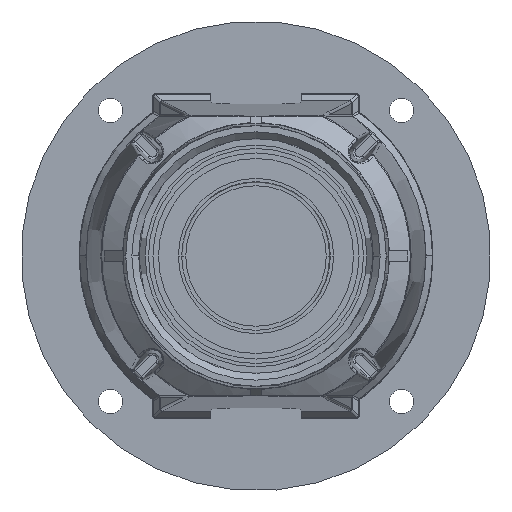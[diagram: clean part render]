
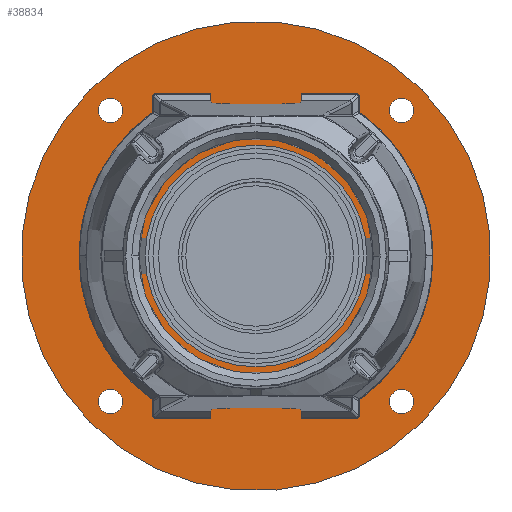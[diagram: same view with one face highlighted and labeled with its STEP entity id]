
A CAD part, front view. The second image highlights one B-rep face of the part: STEP entity #38834.
In plain terms, the highlighted planar face has unit normal (0, -1, 0) as drawn and (0, 0, -1) by its records, which use the part's own axes.
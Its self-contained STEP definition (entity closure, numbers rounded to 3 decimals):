
#38409=CARTESIAN_POINT('',(959.747,61.164,0.));
#38410=DIRECTION('',(0.,0.,1.));
#38411=DIRECTION('',(1.,0.,0.));
#38412=AXIS2_PLACEMENT_3D('',#38409,#38410,#38411);
#38414=CARTESIAN_POINT('',(959.747,61.164,0.));
#38415=DIRECTION('',(0.,0.,1.));
#38416=DIRECTION('',(-1.,0.,0.));
#38417=AXIS2_PLACEMENT_3D('',#38414,#38415,#38416);
#38419=CARTESIAN_POINT('',(913.247,61.164,0.));
#38420=DIRECTION('',(0.,0.,-1.));
#38421=DIRECTION('',(1.,0.,0.));
#38422=AXIS2_PLACEMENT_3D('',#38419,#38420,#38421);
#38424=CARTESIAN_POINT('',(913.247,61.164,0.));
#38425=DIRECTION('',(0.,0.,-1.));
#38426=DIRECTION('',(-1.,0.,0.));
#38427=AXIS2_PLACEMENT_3D('',#38424,#38425,#38426);
#38429=CARTESIAN_POINT('',(959.747,107.664,0.));
#38430=DIRECTION('',(0.,0.,-1.));
#38431=DIRECTION('',(1.,0.,0.));
#38432=AXIS2_PLACEMENT_3D('',#38429,#38430,#38431);
#38434=CARTESIAN_POINT('',(959.747,107.664,0.));
#38435=DIRECTION('',(0.,0.,-1.));
#38436=DIRECTION('',(-1.,0.,0.));
#38437=AXIS2_PLACEMENT_3D('',#38434,#38435,#38436);
#38439=CARTESIAN_POINT('',(1006.247,61.164,0.));
#38440=DIRECTION('',(0.,0.,-1.));
#38441=DIRECTION('',(1.,0.,0.));
#38442=AXIS2_PLACEMENT_3D('',#38439,#38440,#38441);
#38444=CARTESIAN_POINT('',(1006.247,61.164,0.));
#38445=DIRECTION('',(0.,0.,-1.));
#38446=DIRECTION('',(-1.,0.,0.));
#38447=AXIS2_PLACEMENT_3D('',#38444,#38445,#38446);
#38449=CARTESIAN_POINT('',(959.747,14.664,0.));
#38450=DIRECTION('',(0.,0.,-1.));
#38451=DIRECTION('',(1.,0.,0.));
#38452=AXIS2_PLACEMENT_3D('',#38449,#38450,#38451);
#38454=CARTESIAN_POINT('',(959.747,14.664,0.));
#38455=DIRECTION('',(0.,0.,-1.));
#38456=DIRECTION('',(-1.,0.,0.));
#38457=AXIS2_PLACEMENT_3D('',#38454,#38455,#38456);
#38459=CARTESIAN_POINT('',(959.747,61.164,0.));
#38460=DIRECTION('',(0.,0.,-1.));
#38461=DIRECTION('',(1.,0.,0.));
#38462=AXIS2_PLACEMENT_3D('',#38459,#38460,#38461);
#38464=CARTESIAN_POINT('',(959.747,61.164,0.));
#38465=DIRECTION('',(0.,0.,-1.));
#38466=DIRECTION('',(-1.,0.,0.));
#38467=AXIS2_PLACEMENT_3D('',#38464,#38465,#38466);
#38469=CARTESIAN_POINT('',(959.747,28.164,0.));
#38470=DIRECTION('',(0.,0.,1.));
#38471=DIRECTION('',(1.,0.,0.));
#38472=AXIS2_PLACEMENT_3D('',#38469,#38470,#38471);
#38474=CARTESIAN_POINT('',(959.747,28.164,0.));
#38475=DIRECTION('',(0.,0.,1.));
#38476=DIRECTION('',(-1.,0.,0.));
#38477=AXIS2_PLACEMENT_3D('',#38474,#38475,#38476);
#38479=CARTESIAN_POINT('',(926.747,61.164,0.));
#38480=DIRECTION('',(0.,0.,1.));
#38481=DIRECTION('',(1.,0.,0.));
#38482=AXIS2_PLACEMENT_3D('',#38479,#38480,#38481);
#38484=CARTESIAN_POINT('',(926.747,61.164,0.));
#38485=DIRECTION('',(0.,0.,1.));
#38486=DIRECTION('',(-1.,0.,0.));
#38487=AXIS2_PLACEMENT_3D('',#38484,#38485,#38486);
#38489=CARTESIAN_POINT('',(959.747,94.164,0.));
#38490=DIRECTION('',(0.,0.,1.));
#38491=DIRECTION('',(1.,0.,0.));
#38492=AXIS2_PLACEMENT_3D('',#38489,#38490,#38491);
#38494=CARTESIAN_POINT('',(959.747,94.164,0.));
#38495=DIRECTION('',(0.,0.,1.));
#38496=DIRECTION('',(-1.,0.,0.));
#38497=AXIS2_PLACEMENT_3D('',#38494,#38495,#38496);
#38499=CARTESIAN_POINT('',(992.747,61.164,0.));
#38500=DIRECTION('',(0.,0.,1.));
#38501=DIRECTION('',(1.,0.,0.));
#38502=AXIS2_PLACEMENT_3D('',#38499,#38500,#38501);
#38504=CARTESIAN_POINT('',(992.747,61.164,0.));
#38505=DIRECTION('',(0.,0.,1.));
#38506=DIRECTION('',(-1.,0.,0.));
#38507=AXIS2_PLACEMENT_3D('',#38504,#38505,#38506);
#38689=CARTESIAN_POINT('',(1012.747,61.164,0.));
#38690=CARTESIAN_POINT('',(906.747,61.164,0.));
#38691=VERTEX_POINT('',#38689);
#38692=VERTEX_POINT('',#38690);
#38693=CARTESIAN_POINT('',(915.997,61.164,0.));
#38694=CARTESIAN_POINT('',(910.497,61.164,0.));
#38695=VERTEX_POINT('',#38693);
#38696=VERTEX_POINT('',#38694);
#38697=CARTESIAN_POINT('',(962.497,107.664,0.));
#38698=CARTESIAN_POINT('',(956.997,107.664,0.));
#38699=VERTEX_POINT('',#38697);
#38700=VERTEX_POINT('',#38698);
#38701=CARTESIAN_POINT('',(1008.997,61.164,0.));
#38702=CARTESIAN_POINT('',(1003.497,61.164,0.));
#38703=VERTEX_POINT('',#38701);
#38704=VERTEX_POINT('',#38702);
#38705=CARTESIAN_POINT('',(962.497,14.664,0.));
#38706=CARTESIAN_POINT('',(956.997,14.664,0.));
#38707=VERTEX_POINT('',#38705);
#38708=VERTEX_POINT('',#38706);
#38709=CARTESIAN_POINT('',(979.747,61.164,0.));
#38710=CARTESIAN_POINT('',(939.747,61.164,0.));
#38711=VERTEX_POINT('',#38709);
#38712=VERTEX_POINT('',#38710);
#38737=CARTESIAN_POINT('',(961.497,28.164,0.));
#38738=CARTESIAN_POINT('',(957.997,28.164,0.));
#38739=VERTEX_POINT('',#38737);
#38740=VERTEX_POINT('',#38738);
#38745=CARTESIAN_POINT('',(928.497,61.164,0.));
#38746=CARTESIAN_POINT('',(924.997,61.164,0.));
#38747=VERTEX_POINT('',#38745);
#38748=VERTEX_POINT('',#38746);
#38753=CARTESIAN_POINT('',(961.497,94.164,0.));
#38754=CARTESIAN_POINT('',(957.997,94.164,0.));
#38755=VERTEX_POINT('',#38753);
#38756=VERTEX_POINT('',#38754);
#38761=CARTESIAN_POINT('',(994.497,61.164,0.));
#38762=CARTESIAN_POINT('',(990.997,61.164,0.));
#38763=VERTEX_POINT('',#38761);
#38764=VERTEX_POINT('',#38762);
#38769=CARTESIAN_POINT('',(0.,0.,0.));
#38770=DIRECTION('',(0.,0.,1.));
#38771=DIRECTION('',(1.,0.,0.));
#38772=AXIS2_PLACEMENT_3D('',#38769,#38770,#38771);
#38773=PLANE('',#38772);
#38775=ORIENTED_EDGE('',*,*,#38774,.T.);
#38777=ORIENTED_EDGE('',*,*,#38776,.T.);
#38778=EDGE_LOOP('',(#38775,#38777));
#38779=FACE_OUTER_BOUND('',#38778,.F.);
#38781=ORIENTED_EDGE('',*,*,#38780,.T.);
#38783=ORIENTED_EDGE('',*,*,#38782,.T.);
#38784=EDGE_LOOP('',(#38781,#38783));
#38785=FACE_BOUND('',#38784,.F.);
#38787=ORIENTED_EDGE('',*,*,#38786,.T.);
#38789=ORIENTED_EDGE('',*,*,#38788,.T.);
#38790=EDGE_LOOP('',(#38787,#38789));
#38791=FACE_BOUND('',#38790,.F.);
#38793=ORIENTED_EDGE('',*,*,#38792,.T.);
#38795=ORIENTED_EDGE('',*,*,#38794,.T.);
#38796=EDGE_LOOP('',(#38793,#38795));
#38797=FACE_BOUND('',#38796,.F.);
#38799=ORIENTED_EDGE('',*,*,#38798,.T.);
#38801=ORIENTED_EDGE('',*,*,#38800,.T.);
#38802=EDGE_LOOP('',(#38799,#38801));
#38803=FACE_BOUND('',#38802,.F.);
#38805=ORIENTED_EDGE('',*,*,#38804,.T.);
#38807=ORIENTED_EDGE('',*,*,#38806,.T.);
#38808=EDGE_LOOP('',(#38805,#38807));
#38809=FACE_BOUND('',#38808,.F.);
#38811=ORIENTED_EDGE('',*,*,#38810,.F.);
#38813=ORIENTED_EDGE('',*,*,#38812,.F.);
#38814=EDGE_LOOP('',(#38811,#38813));
#38815=FACE_BOUND('',#38814,.F.);
#38817=ORIENTED_EDGE('',*,*,#38816,.F.);
#38819=ORIENTED_EDGE('',*,*,#38818,.F.);
#38820=EDGE_LOOP('',(#38817,#38819));
#38821=FACE_BOUND('',#38820,.F.);
#38823=ORIENTED_EDGE('',*,*,#38822,.F.);
#38825=ORIENTED_EDGE('',*,*,#38824,.F.);
#38826=EDGE_LOOP('',(#38823,#38825));
#38827=FACE_BOUND('',#38826,.F.);
#38829=ORIENTED_EDGE('',*,*,#38828,.F.);
#38831=ORIENTED_EDGE('',*,*,#38830,.F.);
#38832=EDGE_LOOP('',(#38829,#38831));
#38833=FACE_BOUND('',#38832,.F.);
#38834=ADVANCED_FACE('',(#38779,#38785,#38791,#38797,#38803,#38809,#38815,
#38821,#38827,#38833),#38773,.F.);
#38413=CIRCLE('',#38412,53.);
#38418=CIRCLE('',#38417,53.);
#38423=CIRCLE('',#38422,2.75);
#38428=CIRCLE('',#38427,2.75);
#38433=CIRCLE('',#38432,2.75);
#38438=CIRCLE('',#38437,2.75);
#38443=CIRCLE('',#38442,2.75);
#38448=CIRCLE('',#38447,2.75);
#38453=CIRCLE('',#38452,2.75);
#38458=CIRCLE('',#38457,2.75);
#38463=CIRCLE('',#38462,20.);
#38468=CIRCLE('',#38467,20.);
#38473=CIRCLE('',#38472,1.75);
#38478=CIRCLE('',#38477,1.75);
#38483=CIRCLE('',#38482,1.75);
#38488=CIRCLE('',#38487,1.75);
#38493=CIRCLE('',#38492,1.75);
#38498=CIRCLE('',#38497,1.75);
#38503=CIRCLE('',#38502,1.75);
#38508=CIRCLE('',#38507,1.75);
#38774=EDGE_CURVE('',#38691,#38692,#38413,.T.);
#38776=EDGE_CURVE('',#38692,#38691,#38418,.T.);
#38780=EDGE_CURVE('',#38695,#38696,#38423,.T.);
#38782=EDGE_CURVE('',#38696,#38695,#38428,.T.);
#38786=EDGE_CURVE('',#38699,#38700,#38433,.T.);
#38788=EDGE_CURVE('',#38700,#38699,#38438,.T.);
#38792=EDGE_CURVE('',#38703,#38704,#38443,.T.);
#38794=EDGE_CURVE('',#38704,#38703,#38448,.T.);
#38798=EDGE_CURVE('',#38707,#38708,#38453,.T.);
#38800=EDGE_CURVE('',#38708,#38707,#38458,.T.);
#38804=EDGE_CURVE('',#38711,#38712,#38463,.T.);
#38806=EDGE_CURVE('',#38712,#38711,#38468,.T.);
#38810=EDGE_CURVE('',#38739,#38740,#38473,.T.);
#38812=EDGE_CURVE('',#38740,#38739,#38478,.T.);
#38816=EDGE_CURVE('',#38747,#38748,#38483,.T.);
#38818=EDGE_CURVE('',#38748,#38747,#38488,.T.);
#38822=EDGE_CURVE('',#38755,#38756,#38493,.T.);
#38824=EDGE_CURVE('',#38756,#38755,#38498,.T.);
#38828=EDGE_CURVE('',#38763,#38764,#38503,.T.);
#38830=EDGE_CURVE('',#38764,#38763,#38508,.T.);
